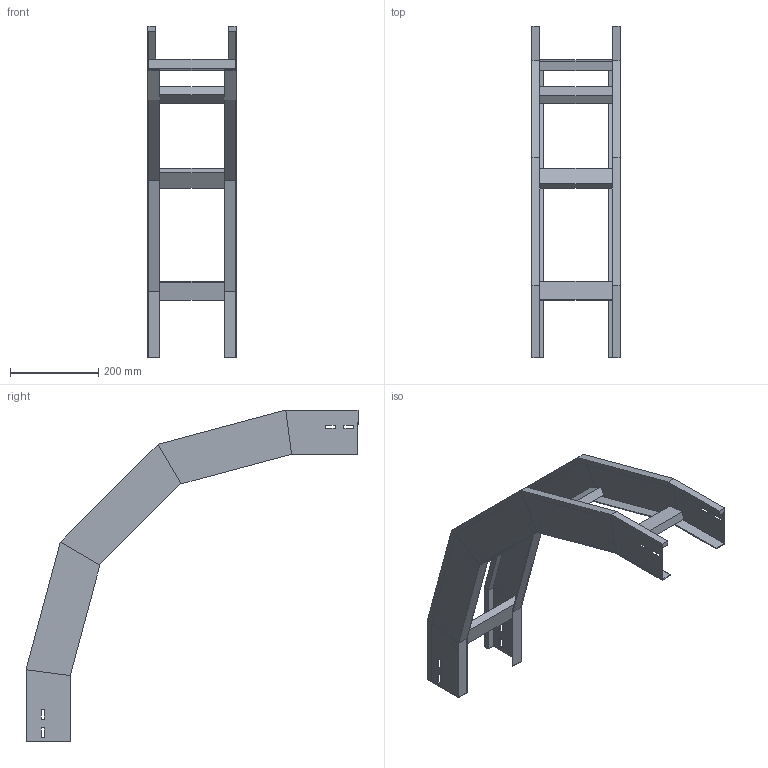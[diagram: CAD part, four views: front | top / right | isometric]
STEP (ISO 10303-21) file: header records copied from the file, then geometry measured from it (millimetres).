
FILE_DESCRIPTION (( 'STEP AP214' ), '1' );
FILE_NAME ('33B5D200.step', '2025-02-21T15:01:01', ( '' ), ( '' ), 'SwSTEP 2.0', 'SolidWorks 2023', '' );
FILE_SCHEMA (( 'AUTOMOTIVE_DESIGN' ));
Length unit declared in the file: millimetre
Products named in the file (3): LONGH.DISCESA_90°_H100_R500; TRAVERSINO_200; 33B5D200
Assembly tree (6 placements, depth 2):
  33B5D200
    LONGH.DISCESA_90°_H100_R500  x2
    TRAVERSINO_200  x4
Bounding box: 200 x 750.35 x 750.35 mm (x, y, z)
Volume: 1674468.1 mm3; surface area: 760003.4 mm2
Topology: 6 solids, 6 shells, 140 faces, 320 edges, 192 vertices
Faces by surface type: plane 140
Entity records: 1872 total; most frequent: CARTESIAN_POINT 309, ORIENTED_EDGE 296, DIRECTION 294, VECTOR 148, LINE 148, EDGE_CURVE 148, VERTEX_POINT 88, AXIS2_PLACEMENT_3D 73
